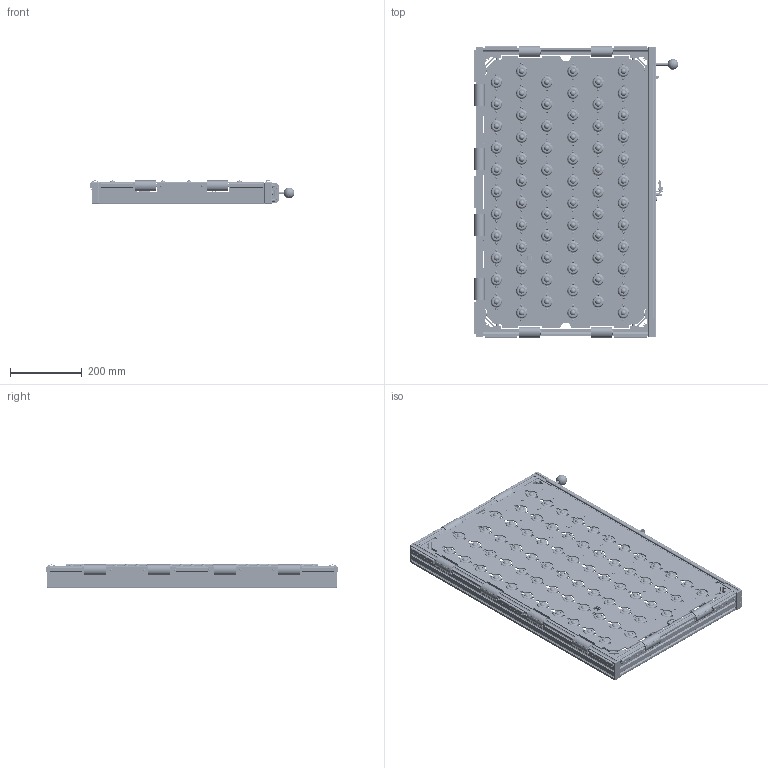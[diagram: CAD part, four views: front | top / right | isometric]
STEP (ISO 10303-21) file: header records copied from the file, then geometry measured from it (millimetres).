
FILE_DESCRIPTION(/* description */ (''),/* implementation_level */ '2;1');
FILE_NAME(/* name */ 'Z:\01-DesignData\★媒体用(Web\X2\FF0F30AB30BF30ED30B0\X0\)CADデータ\001-QL-FUS-5080\組立図.stp',/* time_stamp */ '2019-07-22T11:22:15+09:00',/* author */ ('m-susga'),/* organization */ (''),/* preprocessor_version */ 'ST-DEVELOPER v16.5',/* originating_system */ 'Autodesk Inventor 2017',/* authorisation */ '');
FILE_SCHEMA (('AUTOMOTIVE_DESIGN { 1 0 10303 214 3 1 1 }'));
Products named in the file (69): 組立図; ユニット下部-Assy; シャーシ-Assy; アルミフレーム追加工(1)-A
ssy; NFS5-2060-460-LTP：ローラーVer(\X2\30A230EB30DF30D5
30EC30FC30E0300130DF30B930DF\X0\)追加工; アルミフレーム追加工(2)-A
ssy; NFS5-2060-460-LTP：ローラーVer(\X2\30A230EB30DF30D5
30EC30FC30E0300130DF30B930DF\X0\); アルミフレーム追加工(3)-A
ssy; NFS5-2060-800：ローラーVer(\X2\30A230EB30DF30D530EC
30FC30E0300130DF30B930DF\X0\); ローラー-Assy; ASTP-30-60L(SP \X2\30B930DA30B730E330EB30D530EC30FC30E0300130DF30B930DF
\X0\); SRU-480(SUS304\X2\7CBE5BC630B730E330D530C8300130DF30B9
30DF\X0\); M4; M3x14(十字ナベ、SUS); HNTP5-3(後入れナット：M3); HFS5-2020-800(\X2\30A230EB30DF30D530EC30FC30E0300130DF
30B930DF\X0\); NFS5-2020-400-Z5-XA10(\X2\30A230EB30DF30D530EC30FC30E0300130DF30B930DF
\X0\); NFS5-2020-20(アルミフレーム、ミスミ)\X2\8FFD
52A05DE5\X0\; M5x28(CSB); HFC5-2060-S(フレームキャップ、ミスミ)
-レーザー刻印仕様; HFC5-2060(\X2\30D530EC30FC30E030AD30E330C330D7300130DF
30B930DF\X0\); HBLUT5-SEU(極厚型ブラケット-\X2\30BB30C330C83001
30DF30B930DF\X0\); _HBLUT5_a; HBKUS5-SEU(極厚型ブラケット-\X2\30BB30C330C83001
30DF30B930DF\X0\); _HBKUS5_b; M5x14(CSB); NFS5-2060-460(アルミフレーム、ミスミ)\X2\8FFD
52A05DE5\X0\-Assy; NFS5-2060-460(アルミフレーム、ミスミ)\X2\8FFD
52A05DE5\X0\; NFS5-2060-460(アルミフレーム、ミスミ)\X2\8FFD
52A05DE5\X0\-Ⅱ-Assy; NFS5-2060-460(アルミフレーム、ミスミ)\X2\8FFD
52A05DE5\X0\-Ⅱ; HBLFSL5-SET(\X2\724730EA30D630D630E930B130C330C8300130DF
30B930DF\X0\); HBLFSL5hblfsn5 ; M5x10(CSB); HFC5-2020-S(\X2\30D530EC30FC30E030AD30E330C330D7300130DF
30B930DF\X0\); NFS5-2525-725; M5x18(CSB); プロテクションラバー-700L; メインシリンダー-Assy; M8(W); _HBLFSN5hblfsn5 ...
Assembly tree (407 placements, depth 6):
  組立図
    ユニット下部-Assy
      シャーシ-Assy
        アルミフレーム追加工(1)-A
ssy
          NFS5-2060-460-LTP：ローラーVer(\X2\30A230EB30DF30D5
30EC30FC30E0300130DF30B930DF\X0\)追加工
          ローラー-Assy  x2
            ASTP-30-60L(SP \X2\30B930DA30B730E330EB30D530EC30FC30E0300130DF30B930DF
\X0\)
            SRU-480(SUS304\X2\7CBE5BC630B730E330D530C8300130DF30B9
30DF\X0\)
            M4
          M3x14(十字ナベ、SUS)  x4
          HNTP5-3(後入れナット：M3)  x4
        アルミフレーム追加工(2)-A
ssy
          NFS5-2060-460-LTP：ローラーVer(\X2\30A230EB30DF30D5
30EC30FC30E0300130DF30B930DF\X0\)
          ローラー-Assy  x2
            ASTP-30-60L(SP \X2\30B930DA30B730E330EB30D530EC30FC30E0300130DF30B930DF
\X0\)
            SRU-480(SUS304\X2\7CBE5BC630B730E330D530C8300130DF30B9
30DF\X0\)
            M4
          M3x14(十字ナベ、SUS)  x4
          HNTP5-3(後入れナット：M3)  x4
        アルミフレーム追加工(3)-A
ssy
          NFS5-2060-800：ローラーVer(\X2\30A230EB30DF30D530EC
30FC30E0300130DF30B930DF\X0\)
          ローラー-Assy  x4
            ASTP-30-60L(SP \X2\30B930DA30B730E330EB30D530EC30FC30E0300130DF30B930DF
\X0\)
            SRU-480(SUS304\X2\7CBE5BC630B730E330D530C8300130DF30B9
30DF\X0\)
            M4
          M3x14(十字ナベ、SUS)  x8
          HNTP5-3(後入れナット：M3)  x8
        HFS5-2020-800(\X2\30A230EB30DF30D530EC30FC30E0300130DF
30B930DF\X0\)  x2
        NFS5-2020-400-Z5-XA10(\X2\30A230EB30DF30D530EC30FC30E0300130DF30B930DF
\X0\)
        NFS5-2020-20(アルミフレーム、ミスミ)\X2\8FFD
52A05DE5\X0\
        M5x28(CSB)  x2
        HFC5-2060(\X2\30D530EC30FC30E030AD30E330C330D7300130DF
30B930DF\X0\)  x3
        HFC5-2060-S(フレームキャップ、ミスミ)
-レーザー刻印仕様
        HBLUT5-SEU(極厚型ブラケット-\X2\30BB30C330C83001
30DF30B930DF\X0\)  x2
          _HBLUT5_a
          M5x14(CSB)
        HBKUS5-SEU(極厚型ブラケット-\X2\30BB30C330C83001
30DF30B930DF\X0\)  x4
          _HBKUS5_b
          M5x14(CSB)
        NFS5-2060-460(アルミフレーム、ミスミ)\X2\8FFD
52A05DE5\X0\-Assy  x2
          NFS5-2060-460(アルミフレーム、ミスミ)\X2\8FFD
52A05DE5\X0\
          HBLFSL5-SET(\X2\724730EA30D630D630E930B130C330C8300130DF
30B930DF\X0\)
            HBLFSL5hblfsn5 
            M5x10(CSB)  x2
        NFS5-2060-460(アルミフレーム、ミスミ)\X2\8FFD
52A05DE5\X0\-Ⅱ-Assy  x2
          NFS5-2060-460(アルミフレーム、ミスミ)\X2\8FFD
52A05DE5\X0\-Ⅱ
          HBLFSL5-SET(\X2\724730EA30D630D630E930B130C330C8300130DF
30B930DF\X0\)
            HBLFSL5hblfsn5 
            M5x10(CSB)  x2
        HFC5-2020-S(\X2\30D530EC30FC30E030AD30E330C330D7300130DF
30B930DF\X0\)  x2
        NFS5-2525-725  x6
        M5x18(CSB)  x24
      プロテクションラバー-90L  x4
      プロテクションラバー-700L
      メインシリンダー-Assy
        M8(W)
        _HBLFSN5hblfsn5
        HNS3-ST-M8_214
        スライダー(\X2\5BFE30DF30B930DF7528
\X0\)
        M5(W、SUS)
Bounding box: 568.7 x 811.4 x 65.7 mm (x, y, z)
Volume: 5276390.9 mm3; surface area: 4584072.2 mm2
Topology: 603 solids, 603 shells, 19719 faces, 52099 edges, 33947 vertices
Faces by surface type: plane 11162, cylinder 6103, cone 997, torus 709, sphere 474, bspline 274
Full cylindrical faces by diameter (mm): 0.6 x69, 1.7 x8, 2 x8, 2.1 x1, 2.459 x16, 2.5 x1, 2.693 x2, 2.8 x1, 3 x18, 3.242 x140, 3.5 x186, 3.57 x138, 4 x163, 4.134 x17, 4.2 x61, 4.3 x16, 4.5 x138, 4.51 x1, 4.959 x6, 5 x90, 5.2 x32, 5.3 x8, 5.5 x65, 6 x1, 6.647 x3, 7 x2, 7.98 x2, 8 x19, 8.4 x1, 8.5 x82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
Entity records: 166450 total; most frequent: CARTESIAN_POINT 37154, ORIENTED_EDGE 26462, DIRECTION 25341, EDGE_CURVE 13231, LINE 9529, VECTOR 9529, VERTEX_POINT 8917, AXIS2_PLACEMENT_3D 7906
